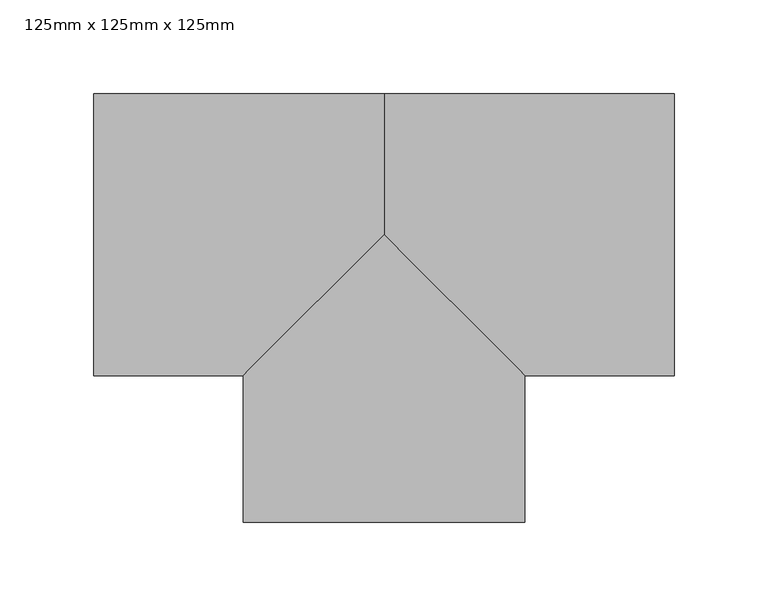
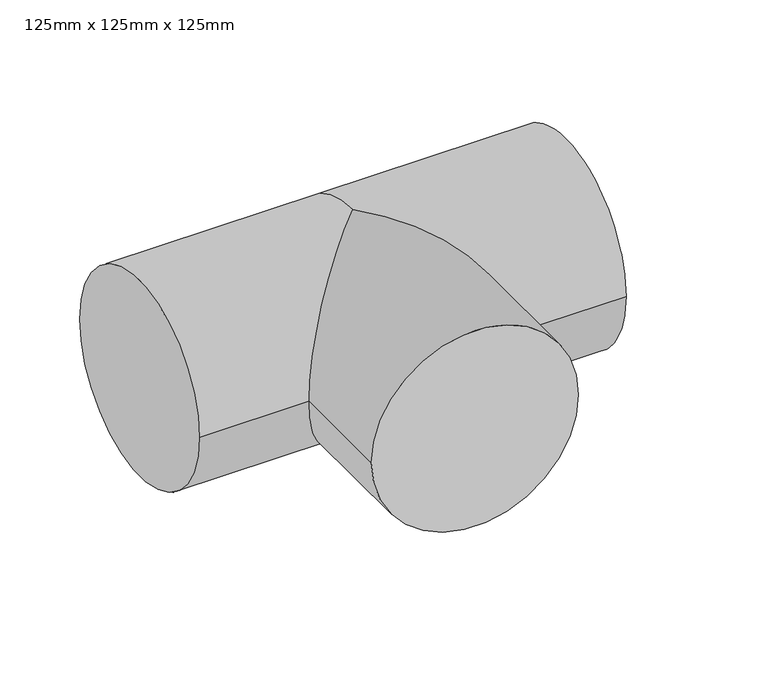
"""IFC4 building model written with IfcOpenShell, lengths in millimetres: pipe fitting geometry, PipeFitting_HTA_CPVC_Tees90° : 125mm x 125mm x 125mm."""

import ifcopenshell
import ifcopenshell.guid

model = None  # the IFC model being written
_history = None  # IfcOwnerHistory: only IFC2X3 demands one
_inside = {}  # id of a spatial element -> (the spatial element, [elements in it])
_under = {}  # id of a project, library or spatial element -> (it, [spatial elements below it])
_declared = {}  # id of a project -> (the project, [libraries it declares])
_typed = {}  # id of a type object -> (the type object, [elements of that type])
_made_of = {}  # id of a material, layer set ... -> (it, [elements and type objects made of it])


def new_model(schema):
    """Start an empty IFC model of exactly this schema.

    Asked for "IFC4X3", IfcOpenShell would pick the latest addendum, in which some entities
    have other attributes; the version numbers below select the first issue.
    IFC2X3 requires an IfcOwnerHistory on every rooted entity: one is made here for all.
    """
    global model, _history
    if schema == "IFC4X3":
        model = ifcopenshell.file(schema_version=(4, 3, 0, 0))
    else:
        model = ifcopenshell.file(schema=schema)
    _inside.clear()
    _under.clear()
    _declared.clear()
    _typed.clear()
    _made_of.clear()
    _history = None
    if model.schema == "IFC2X3":
        org = make("IfcOrganization", Name="unknown")
        user = make(
            "IfcPersonAndOrganization",
            ThePerson=make("IfcPerson", FamilyName="unknown"),
            TheOrganization=org,
        )
        app = make(
            "IfcApplication",
            ApplicationDeveloper=org,
            Version="unknown",
            ApplicationFullName="unknown",
            ApplicationIdentifier="unknown",
        )
        _history = make(
            "IfcOwnerHistory",
            OwningUser=user,
            OwningApplication=app,
            ChangeAction="ADDED",
            CreationDate=0,
        )
    return model


def make(cls, **values):
    """One entity of the class cls with the attributes given. An attribute that is None is left unset."""
    return model.create_entity(
        cls, **{name: value for name, value in values.items() if value is not None}
    )


def rooted(cls, **values):
    """An entity with a GlobalId (a new one), such as an element, a storey or a relation."""
    return make(cls, GlobalId=ifcopenshell.guid.new(), OwnerHistory=_history, **values)


def si_unit(unit_type, name, prefix=None):
    """IfcSIUnit, for example si_unit("LENGTHUNIT", "METRE", prefix="MILLI")."""
    return make("IfcSIUnit", UnitType=unit_type, Prefix=prefix, Name=name)


def assignment(units):
    """IfcUnitAssignment: the units of a project."""
    return None if units is None else make("IfcUnitAssignment", Units=units)


def point(xyz):
    """IfcCartesianPoint."""
    return None if xyz is None else make("IfcCartesianPoint", Coordinates=xyz)


def direction(xyz):
    """IfcDirection."""
    return None if xyz is None else make("IfcDirection", DirectionRatios=xyz)


def frame(location, z_axis=None, x_axis=None):
    """IfcAxis2Placement3D, a coordinate frame: its origin and axes. An axis left out is left unset."""
    return make(
        "IfcAxis2Placement3D",
        Location=point(location),
        Axis=direction(z_axis),
        RefDirection=direction(x_axis),
    )


def origin():
    """The frame at (0, 0, 0) with its axes left unset."""
    return frame((0.0, 0.0, 0.0))


def place(relative_to, where):
    """IfcLocalPlacement: puts the frame where relative to a parent placement (None: the world)."""
    return make(
        "IfcLocalPlacement", PlacementRelTo=relative_to, RelativePlacement=where
    )


def context(
    kind, dimensions, precision=None, world=None, true_north=None, identifier=None
):
    """IfcGeometricRepresentationContext, for example the 3D "Model" context."""
    return make(
        "IfcGeometricRepresentationContext",
        ContextIdentifier=identifier,
        ContextType=kind,
        CoordinateSpaceDimension=dimensions,
        Precision=precision,
        WorldCoordinateSystem=world,
        TrueNorth=true_north,
    )


def project(units=None, contexts=None):
    """IfcProject with its units and contexts."""
    return rooted(
        "IfcProject",
        Name="project",
        RepresentationContexts=contexts,
        UnitsInContext=assignment(units),
    )


def spatial(cls, under=None, at=None, **own):
    """A site, building, storey or space (cls), placed at a placement, below another one or the project."""
    s = rooted(cls, ObjectPlacement=at, **own)
    if under is not None:
        _under.setdefault(under.id(), (under, []))[1].append(s)
    return s


def circle_curve(where, radius):
    """IfcCircle in the frame where."""
    return make("IfcCircle", Position=where, Radius=radius)


def ellipse_curve(where, semi_axis1, semi_axis2):
    """IfcEllipse in the frame where."""
    return make(
        "IfcEllipse", Position=where, SemiAxis1=semi_axis1, SemiAxis2=semi_axis2
    )


def shape(context_of_items, identifier, shape_type, items):
    """IfcShapeRepresentation: the items that make up one representation, for example the "Body"."""
    return make(
        "IfcShapeRepresentation",
        ContextOfItems=context_of_items,
        RepresentationIdentifier=identifier,
        RepresentationType=shape_type,
        Items=items,
    )


def source(mapping_origin, context_of_items, identifier, shape_type, items):
    """IfcRepresentationMap: a shape defined once, which mapped items show again and again."""
    return make(
        "IfcRepresentationMap",
        MappingOrigin=mapping_origin,
        MappedRepresentation=shape(context_of_items, identifier, shape_type, items),
    )


def transform(
    local_origin,
    x_axis=None,
    y_axis=None,
    z_axis=None,
    scale=None,
    scale2=None,
    scale3=None,
    uniform=True,
):
    """IfcCartesianTransformationOperator3D, or its non-uniform kind. x_axis, y_axis, z_axis: its Axis1, 2, 3."""
    if uniform:
        return make(
            "IfcCartesianTransformationOperator3D",
            Axis1=direction(x_axis),
            Axis2=direction(y_axis),
            LocalOrigin=point(local_origin),
            Scale=scale,
            Axis3=direction(z_axis),
        )
    return make(
        "IfcCartesianTransformationOperator3DnonUniform",
        Axis1=direction(x_axis),
        Axis2=direction(y_axis),
        LocalOrigin=point(local_origin),
        Scale=scale,
        Axis3=direction(z_axis),
        Scale2=scale2,
        Scale3=scale3,
    )


def mapped(mapping_source, mapping_target):
    """IfcMappedItem: shows the shape of a source again, moved by a transform."""
    return make(
        "IfcMappedItem", MappingSource=mapping_source, MappingTarget=mapping_target
    )


def made_of(thing, what):
    """Note that an element or type object is made of a material, layer set ...; save() writes the relation."""
    if what is not None:
        _made_of.setdefault(what.id(), (what, []))[1].append(thing)
    return thing


def element(
    cls,
    number,
    at=None,
    inside=None,
    cuts=None,
    type_object=None,
    material=None,
    context=None,
    identifier="Body",
    shape_type=None,
    held_by="IfcProductDefinitionShape",
    body=None,
    shapes=None,
    **own,
):
    """One element of the class cls, such as IfcWall. Its Tag is "e" and its number.

    at: its placement. inside: the storey or other place that contains it. cuts: it is an
    opening in that element (IfcRelVoidsElement). A single representation is given by context,
    identifier, shape_type and body (its items); several are given by shapes. held_by: the class
    of the entity that holds the representations. save() writes the other relations.
    """
    e = rooted(cls, Tag="e%d" % number, ObjectPlacement=at, **own)
    if body is not None:
        shapes = [shape(context, identifier, shape_type, body)]
    if shapes is not None:
        e.Representation = make(held_by, Representations=shapes)
    if inside is not None:
        _inside.setdefault(inside.id(), (inside, []))[1].append(e)
    if cuts is not None:
        rooted(
            "IfcRelVoidsElement", RelatingBuildingElement=cuts, RelatedOpeningElement=e
        )
    if type_object is not None:
        _typed.setdefault(type_object.id(), (type_object, []))[1].append(e)
    return made_of(e, material)


def aggregate(whole, parts):
    """IfcRelAggregates: a whole, such as a stair, and the parts it consists of."""
    return rooted("IfcRelAggregates", RelatingObject=whole, RelatedObjects=parts)


def save(model, path):
    """Write the relations noted so far, then the file.

    IfcRelAggregates (storeys below a building ...), IfcRelContainedInSpatialStructure (elements
    in a storey), IfcRelDefinesByType, IfcRelAssociatesMaterial and IfcRelDeclares: one each for
    every whole, place, type object, material and project.
    """
    for whole, parts in _under.values():
        aggregate(whole, parts)
    for where, things in _inside.values():
        rooted(
            "IfcRelContainedInSpatialStructure",
            RelatedElements=things,
            RelatingStructure=where,
        )
    for kind, things in _typed.values():
        rooted("IfcRelDefinesByType", RelatedObjects=things, RelatingType=kind)
    for what, things in _made_of.values():
        rooted("IfcRelAssociatesMaterial", RelatedObjects=things, RelatingMaterial=what)
    for by, libraries in _declared.values():
        rooted("IfcRelDeclares", RelatingContext=by, RelatedDefinitions=libraries)
    model.write(path)


def plane_surface(at):
    """IfcPlane: the flat surface through the origin of the frame at, square to its z axis."""
    return make("IfcPlane", Position=at)


def cylinder_surface(at, radius):
    """IfcCylindricalSurface: all points at the distance radius from the z axis of the frame at."""
    return make("IfcCylindricalSurface", Position=at, Radius=radius)


def advanced_brep(points, edges, surfaces, faces):
    """IfcAdvancedBrep: a solid bounded by faces that lie on surfaces and meet in shared edges.

    An edge is (start, end): straight between two places in points (the first is 0);
    or (start, end, curve); or (start, end, curve, False) where it runs against its curve.
    A face is (place in surfaces, loops), or (place, loops, False) where it looks against
    its surface's normal. A loop lists edges by number (the first is 1), with a minus sign
    where the edge is run from its end to its start. The first loop is the outer one.
    """
    corners = [point(p) for p in points]
    vertices = [make("IfcVertexPoint", VertexGeometry=c) for c in corners]
    made = []
    for start, end, *more in edges:
        made.append(
            make(
                "IfcEdgeCurve",
                EdgeStart=vertices[start],
                EdgeEnd=vertices[end],
                EdgeGeometry=more[0] if more else make("IfcPolyline", Points=[corners[start], corners[end]]),
                SameSense=more[1] if len(more) > 1 else True,
            )
        )
    hull = []
    for where, loops, *sense in faces:
        bounds = []
        for j, loop in enumerate(loops):
            ring = [make("IfcOrientedEdge", EdgeElement=made[abs(k) - 1], Orientation=k > 0) for k in loop]
            bounds.append(
                make(
                    "IfcFaceOuterBound" if j == 0 else "IfcFaceBound",
                    Bound=make("IfcEdgeLoop", EdgeList=ring),
                    Orientation=True,
                )
            )
        hull.append(make("IfcAdvancedFace", Bounds=bounds, FaceSurface=surfaces[where], SameSense=sense[0] if sense else True))
    return make("IfcAdvancedBrep", Outer=make("IfcClosedShell", CfsFaces=hull))


def pipe_fitting_125mm_x_125mm_x_125mm_fb475a6f(model_context):
    return source(origin(), model_context, "Body", "AdvancedBrep", [
        advanced_brep(
        [(-75.0, -153.0, 0.0), (75.0, -153.0, 0.0), (75.0, -75.0, 0.0), (0.0, 0.0, 75.0), (-75.0, -75.0, 0.0), (0.0, 0.0, -75.0), (-154.5, -75.0, 0.0), (-154.5, 75.0, 0.0), (0.0, 75.0, 0.0), (154.5, -75.0, 0.0), (154.5, 75.0, 0.0)],
        [
            (0, 1, circle_curve(frame((0.0, -153.0, 0.0), z_axis=(0.0, -1.0, 0.0), x_axis=(1.0, 0.0, 0.0)), 75.0)),
            (1, 0, circle_curve(frame((0.0, -153.0, 0.0), z_axis=(0.0, -1.0, 0.0), x_axis=(1.0, 0.0, 0.0)), 75.0)),
            (1, 2),
            (2, 3, ellipse_curve(frame((0.0, 0.0, 0.0), z_axis=(-0.7071067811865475, -0.7071067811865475, 0.0), x_axis=(-0.7071067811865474, 0.7071067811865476, 0.0)), 106.0660172, 75.0)),
            (3, 4, ellipse_curve(frame((0.0, 0.0, 0.0), z_axis=(0.7071067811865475, -0.7071067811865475, 0.0), x_axis=(0.7071067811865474, 0.7071067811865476, 0.0)), 106.0660172, 75.0)),
            (4, 0),
            (4, 5, ellipse_curve(frame((0.0, 0.0, 0.0), z_axis=(0.7071067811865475, -0.7071067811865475, 0.0), x_axis=(0.7071067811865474, 0.7071067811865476, 0.0)), 106.0660172, 75.0)),
            (5, 2, ellipse_curve(frame((0.0, 0.0, 0.0), z_axis=(-0.7071067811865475, -0.7071067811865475, 0.0), x_axis=(-0.7071067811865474, 0.7071067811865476, 0.0)), 106.0660172, 75.0)),
            (6, 7, circle_curve(frame((-154.5, 0.0, 0.0), z_axis=(-1.0, 0.0, 0.0), x_axis=(0.0, 1.0, 0.0)), 75.0)),
            (7, 6, circle_curve(frame((-154.5, 0.0, 0.0), z_axis=(-1.0, 0.0, 0.0), x_axis=(0.0, 1.0, 0.0)), 75.0)),
            (6, 4),
            (3, 8, circle_curve(frame((0.0, 0.0, 0.0), z_axis=(-1.0, 0.0, 0.0), x_axis=(0.0, 1.0, 0.0)), 75.0)),
            (8, 7),
            (8, 5, circle_curve(frame((0.0, 0.0, 0.0), z_axis=(-1.0, 0.0, 0.0), x_axis=(0.0, 1.0, 0.0)), 75.0)),
            (9, 10, circle_curve(frame((154.5, 0.0, 0.0), z_axis=(1.0, 0.0, 0.0), x_axis=(0.0, 1.0, 0.0)), 75.0)),
            (10, 9, circle_curve(frame((154.5, 0.0, 0.0), z_axis=(1.0, 0.0, 0.0), x_axis=(0.0, 1.0, 0.0)), 75.0)),
            (10, 8),
            (2, 9),
        ],
        [
            plane_surface(frame((0.0, -153.0, 0.0), z_axis=(0.0, -1.0, 0.0), x_axis=(0.0, 0.0, 1.0))),
            cylinder_surface(frame((0.0, 0.0, 0.0), z_axis=(0.0, 1.0, 0.0), x_axis=(1.0, 0.0, 0.0)), 75.0),
            plane_surface(frame((-154.5, 0.0, 0.0), z_axis=(-1.0, 0.0, 0.0), x_axis=(0.0, 0.0, 1.0))),
            cylinder_surface(frame((-154.5, 0.0, 0.0), z_axis=(-1.0, 0.0, 0.0), x_axis=(0.0, 1.0, 0.0)), 75.0),
            plane_surface(frame((154.5, 0.0, 0.0), z_axis=(1.0, 0.0, 0.0), x_axis=(0.0, 0.0, 1.0))),
            cylinder_surface(frame((0.0, 0.0, 0.0), z_axis=(-1.0, 0.0, 0.0), x_axis=(0.0, 1.0, 0.0)), 75.0),
        ],
        [
            (0, [[1, 2]]),
            (1, [[-2, 3, 4, 5, 6]]),
            (1, [[-1, -6, 7, 8, -3]]),
            (2, [[9, 10]]),
            (3, [[-9, 11, -5, 12, 13]]),
            (3, [[-10, -13, 14, -7, -11]]),
            (4, [[15, 16]]),
            (5, [[-16, 17, -12, -4, 18]]),
            (5, [[-15, -18, -8, -14, -17]]),
        ],
    ),
    ])


if __name__ == "__main__":
    model = new_model("IFC4")
    model_context = context("Model", 3, world=origin())
    ifc_project = project(units=[si_unit("LENGTHUNIT", "METRE", prefix="MILLI")], contexts=[model_context])
    site = spatial("IfcSite", under=ifc_project)
    building = spatial("IfcBuilding", under=site)
    placement = place(None, origin())
    pipe_fitting_125mm_x_125mm_x_125mm_shape = pipe_fitting_125mm_x_125mm_x_125mm_fb475a6f(model_context)
    element("IfcPipeFitting", 1, ObjectType="PipeFitting_HTA_CPVC_Tees90° : 125mm x 125mm x 125mm", at=placement, inside=building, context=model_context, shape_type="MappedRepresentation", body=[
        mapped(pipe_fitting_125mm_x_125mm_x_125mm_shape, transform((0.0, 0.0, 0.0), x_axis=(1.0, 0.0, 0.0), y_axis=(0.0, 1.0, 0.0), z_axis=(0.0, 0.0, 1.0))),
    ])
    save(model, "model.ifc")
